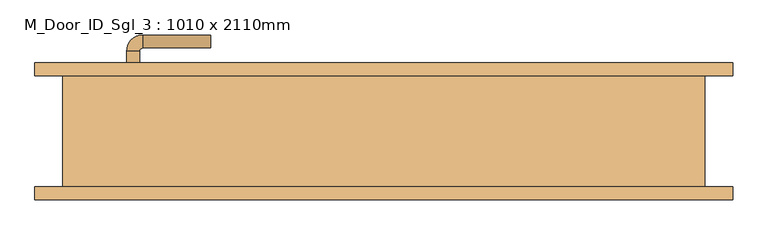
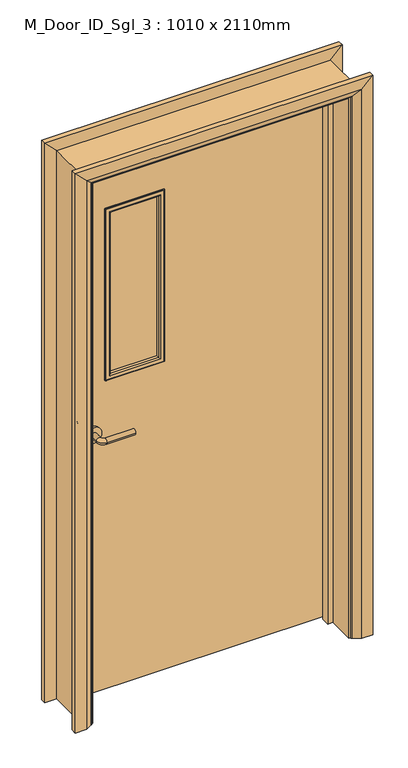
"""IFC4 building model written with IfcOpenShell, lengths in millimetres: door geometry, M_Door_ID_Sgl_3 : 1010 x 2110mm."""

from ifc_helpers import new_model, si_unit, point, frame, frame_2d, origin, place, context, project, spatial, polyline, circle_curve, ellipse_curve, trimmed, segment, composite_curve, outline, extrude, faceted_brep, source, transform, mapped, element, save
from ifc_brep_helpers import plane_surface, cylinder_surface, revolved_surface, advanced_brep


def m_door_id_sgl_3_1010_x_2110mm_d7484460(model_context):
    return source(origin(), model_context, "Body", "SolidModel", [
        advanced_brep(
        [(-398.0, 40.0, 1000.0), (-378.0, 40.0, 1000.0), (-378.0, 10.0, 1000.0), (-398.0, 10.0, 1000.0), (-373.0, 5.0, 1000.0), (-373.0, -15.0, 1000.0), (-268.0, -15.0, 1000.0), (-268.0, 5.0, 1000.0)],
        [
            (0, 1, circle_curve(frame((-388.0, 40.0, 1000.0), z_axis=(0.0, 1.0, 0.0), x_axis=(1.0, 0.0, 0.0)), 10.0)),
            (1, 0, circle_curve(frame((-388.0, 40.0, 1000.0), z_axis=(0.0, 1.0, 0.0), x_axis=(1.0, 0.0, 0.0)), 10.0)),
            (1, 2),
            (2, 3, circle_curve(frame((-388.0, 10.0, 1000.0), z_axis=(0.0, 1.0, 0.0), x_axis=(1.0, 0.0, 0.0)), 10.0)),
            (3, 0),
            (3, 2, circle_curve(frame((-388.0, 10.0, 1000.0), z_axis=(0.0, 1.0, 0.0), x_axis=(1.0, 0.0, 0.0)), 10.0)),
            (4, 5, circle_curve(frame((-373.0, -5.0, 1000.0), z_axis=(-1.0, 0.0, 0.0), x_axis=(0.0, 1.0, 0.0)), 10.0)),
            (5, 3, circle_curve(frame((-373.0, 10.0, 1000.0), z_axis=(0.0, 0.0, -1.0), x_axis=(-1.0, 0.0, 0.0)), 25.0)),
            (2, 4, circle_curve(frame((-373.0, 10.0, 1000.0), z_axis=(0.0, 0.0, 1.0), x_axis=(-1.0, 0.0, 0.0)), 5.0)),
            (5, 4, circle_curve(frame((-373.0, -5.0, 1000.0), z_axis=(-1.0, 0.0, 0.0), x_axis=(0.0, 1.0, 0.0)), 10.0)),
            (6, 7, circle_curve(frame((-268.0, -5.0, 1000.0), z_axis=(1.0, 0.0, 0.0), x_axis=(0.0, 1.0, 0.0)), 10.0)),
            (7, 6, circle_curve(frame((-268.0, -5.0, 1000.0), z_axis=(1.0, 0.0, 0.0), x_axis=(0.0, 1.0, 0.0)), 10.0)),
            (4, 7),
            (6, 5),
        ],
        [
            plane_surface(frame((-388.0, 40.0, 1000.0), z_axis=(0.0, 1.0, 0.0), x_axis=(0.0, 0.0, 1.0))),
            cylinder_surface(frame((-388.0, 40.0, 1000.0), z_axis=(0.0, 1.0, 0.0), x_axis=(1.0, 0.0, 0.0)), 10.0),
            revolved_surface(trimmed(ellipse_curve(frame((-388.0, 10.0, 1000.0), z_axis=(0.0, -1.0, 0.0), x_axis=(1.0, 0.0, 0.0)), 10.0, 10.0), [point((-398.0, 10.0, 1000.0))], [point((-378.0, 10.0, 1000.0))], True, "CARTESIAN"), (-373.0, 10.0, 1000.0), (0.0, 0.0, -1.0)),
            revolved_surface(trimmed(ellipse_curve(frame((-388.0, 10.0, 1000.0), z_axis=(0.0, -1.0, 0.0), x_axis=(1.0, 0.0, 0.0)), 10.0, 10.0), [point((-378.0, 10.0, 1000.0))], [point((-398.0, 10.0, 1000.0))], True, "CARTESIAN"), (-373.0, 10.0, 1000.0), (0.0, 0.0, -1.0)),
            plane_surface(frame((-268.0, -5.0, 1000.0), z_axis=(1.0, 0.0, 0.0), x_axis=(0.0, 0.0, 1.0))),
            cylinder_surface(frame((-373.0, -5.0, 1000.0), z_axis=(-1.0, 0.0, 0.0), x_axis=(0.0, 1.0, 0.0)), 10.0),
        ],
        [
            (0, [[1, 2]]),
            (1, [[3, 4, 5, -2]]),
            (1, [[-5, 6, -3, -1]]),
            (2, [[7, 8, -4, 9]]),
            (3, [[10, -9, -6, -8]]),
            (4, [[11, 12]]),
            (5, [[13, -11, 14, -7]]),
            (5, [[-14, -12, -13, -10]]),
        ],
    ),
        extrude(outline(composite_curve([segment(trimmed(circle_curve(frame_2d((1000.0, -390.5)), 30.0), [point((1000.0, -420.5))], [point((1000.0, -360.5))], False, "CARTESIAN"), True, "CONTINUOUS"), segment(trimmed(circle_curve(frame_2d((1000.0, -390.5)), 30.0), [point((1000.0, -360.5))], [point((1000.0, -420.5))], False, "CARTESIAN"), True, "CONTINUOUS")], self_intersect=False)), frame((0.0, 40.0, 0.0), z_axis=(0.0, 1.0, 0.0), x_axis=(0.0, 0.0, 1.0)), (0.0, 0.0, 1.0), 8.0),
        advanced_brep(
        [(-398.0, 94.0, 1000.0), (-378.0, 94.0, 1000.0), (-398.0, 124.0, 1000.0), (-378.0, 124.0, 1000.0), (-373.0, 129.0, 1000.0), (-373.0, 149.0, 1000.0), (-268.0, 149.0, 1000.0), (-268.0, 129.0, 1000.0)],
        [
            (0, 1, circle_curve(frame((-388.0, 94.0, 1000.0), z_axis=(0.0, -1.0, 0.0), x_axis=(1.0, 0.0, 0.0)), 10.0)),
            (1, 0, circle_curve(frame((-388.0, 94.0, 1000.0), z_axis=(0.0, -1.0, 0.0), x_axis=(1.0, 0.0, 0.0)), 10.0)),
            (0, 2),
            (2, 3, circle_curve(frame((-388.0, 124.0, 1000.0), z_axis=(0.0, -1.0, 0.0), x_axis=(1.0, 0.0, 0.0)), 10.0)),
            (3, 1),
            (3, 2, circle_curve(frame((-388.0, 124.0, 1000.0), z_axis=(0.0, -1.0, 0.0), x_axis=(1.0, 0.0, 0.0)), 10.0)),
            (4, 3, circle_curve(frame((-373.0, 124.0, 1000.0), z_axis=(0.0, 0.0, 1.0), x_axis=(-1.0, 0.0, 0.0)), 5.0)),
            (2, 5, circle_curve(frame((-373.0, 124.0, 1000.0), z_axis=(0.0, 0.0, -1.0), x_axis=(-1.0, 0.0, 0.0)), 25.0)),
            (5, 4, circle_curve(frame((-373.0, 139.0, 1000.0), z_axis=(-1.0, 0.0, 0.0), x_axis=(0.0, -1.0, 0.0)), 10.0)),
            (4, 5, circle_curve(frame((-373.0, 139.0, 1000.0), z_axis=(-1.0, 0.0, 0.0), x_axis=(0.0, -1.0, 0.0)), 10.0)),
            (6, 7, circle_curve(frame((-268.0, 139.0, 1000.0), z_axis=(1.0, 0.0, 0.0), x_axis=(0.0, -1.0, 0.0)), 10.0)),
            (7, 6, circle_curve(frame((-268.0, 139.0, 1000.0), z_axis=(1.0, 0.0, 0.0), x_axis=(0.0, -1.0, 0.0)), 10.0)),
            (5, 6),
            (7, 4),
        ],
        [
            plane_surface(frame((-388.0, 94.0, 1000.0), z_axis=(0.0, -1.0, 0.0), x_axis=(0.0, 0.0, 1.0))),
            cylinder_surface(frame((-388.0, 94.0, 1000.0), z_axis=(0.0, -1.0, 0.0), x_axis=(1.0, 0.0, 0.0)), 10.0),
            revolved_surface(trimmed(ellipse_curve(frame((-388.0, 124.0, 1000.0), z_axis=(0.0, -1.0, 0.0), x_axis=(1.0, 0.0, 0.0)), 10.0, 10.0), [point((-398.0, 124.0, 1000.0))], [point((-378.0, 124.0, 1000.0))], True, "CARTESIAN"), (-373.0, 124.0, 1000.0), (0.0, 0.0, -1.0)),
            revolved_surface(trimmed(ellipse_curve(frame((-388.0, 124.0, 1000.0), z_axis=(0.0, -1.0, 0.0), x_axis=(1.0, 0.0, 0.0)), 10.0, 10.0), [point((-378.0, 124.0, 1000.0))], [point((-398.0, 124.0, 1000.0))], True, "CARTESIAN"), (-373.0, 124.0, 1000.0), (0.0, 0.0, -1.0)),
            plane_surface(frame((-268.0, 139.0, 1000.0), z_axis=(1.0, 0.0, 0.0), x_axis=(0.0, 0.0, 1.0))),
            cylinder_surface(frame((-373.0, 139.0, 1000.0), z_axis=(-1.0, 0.0, 0.0), x_axis=(0.0, -1.0, 0.0)), 10.0),
        ],
        [
            (0, [[1, 2]]),
            (1, [[-1, 3, 4, 5]]),
            (1, [[-2, -5, 6, -3]]),
            (2, [[7, -4, 8, 9]]),
            (3, [[-8, -6, -7, 10]]),
            (4, [[11, 12]]),
            (5, [[-9, 13, -12, 14]]),
            (5, [[-10, -14, -11, -13]]),
        ],
    ),
        extrude(outline(composite_curve([segment(trimmed(circle_curve(frame_2d((1000.0, -390.5)), 30.0), [point((1000.0, -420.5))], [point((1000.0, -360.5))], False, "CARTESIAN"), True, "CONTINUOUS"), segment(trimmed(circle_curve(frame_2d((1000.0, -390.5)), 30.0), [point((1000.0, -360.5))], [point((1000.0, -420.5))], False, "CARTESIAN"), True, "CONTINUOUS")], self_intersect=False)), frame((0.0, 86.0, 0.0), z_axis=(0.0, 1.0, 0.0), x_axis=(0.0, 0.0, 1.0)), (0.0, 0.0, 1.0), 8.0),
        extrude(outline(polyline([(2068.0, -463.0), (8.0, -463.0), (8.0, 463.0), (2068.0, 463.0), (2068.0, -463.0)]), holes=[polyline([(1843.0, -138.0), (1200.0, -138.0), (1200.0, -338.0), (1843.0, -338.0), (1843.0, -138.0)])]), frame((0.0, 48.0, 0.0), z_axis=(0.0, 1.0, 0.0), x_axis=(0.0, 0.0, 1.0)), (0.0, 0.0, 1.0), 38.0),
        faceted_brep([(-465.0, 86.0, 0.0), (-465.0, -86.0, 0.0), (-497.0, -86.0, 0.0), (-497.0, 86.0, 0.0), (-465.0, 86.0, 2070.0), (-465.0, -86.0, 2070.0), (-497.0, -86.0, 2102.0), (-497.0, 86.0, 2102.0), (465.0, 86.0, 0.0), (497.0, 86.0, 0.0), (497.0, -86.0, 0.0), (465.0, -86.0, 0.0), (465.0, 86.0, 2070.0), (497.0, 86.0, 2102.0), (497.0, -86.0, 2102.0), (465.0, -86.0, 2070.0)], [[[0, 1, 2, 3]], [[1, 0, 4, 5]], [[2, 1, 5, 6]], [[3, 2, 6, 7]], [[0, 3, 7, 4]], [[8, 9, 10, 11]], [[12, 13, 9, 8]], [[13, 14, 10, 9]], [[14, 15, 11, 10]], [[15, 12, 8, 11]], [[5, 4, 12, 15]], [[6, 5, 15, 14]], [[7, 6, 14, 13]], [[4, 7, 13, 12]]]),
        advanced_brep(
        [(-540.0, -106.0, 0.0), (-540.0, -86.0, 0.0), (-470.0, -86.0, 0.0), (-474.0, -92.0, 0.0), (-500.0, -106.0, 0.0), (-540.0, -106.0, 2145.0), (-540.0, -86.0, 2145.0), (-470.0, -86.0, 2075.0), (-474.0, -92.0, 2079.0), (-500.0, -106.0, 2105.0), (540.0, -106.0, 0.0), (500.0, -106.0, 0.0), (474.0, -92.0, 0.0), (470.0, -86.0, 0.0), (540.0, -86.0, 0.0), (540.0, -106.0, 2145.0), (500.0, -106.0, 2105.0), (474.0, -92.0, 2079.0), (470.0, -86.0, 2075.0), (540.0, -86.0, 2145.0)],
        [
            (0, 1),
            (1, 2),
            (2, 3, circle_curve(frame((-478.0, -85.0, 0.0), z_axis=(0.0, 0.0, -1.0), x_axis=(-1.0, 0.0, 0.0)), 8.0622577)),
            (3, 4),
            (4, 0),
            (0, 5),
            (5, 6),
            (6, 1),
            (6, 7),
            (7, 2),
            (7, 8, ellipse_curve(frame((-478.0, -85.0, 2083.0), z_axis=(-0.7071067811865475, 0.0, -0.7071067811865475), x_axis=(0.7071067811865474, 0.0, -0.7071067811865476)), 11.4017543, 8.0622577)),
            (8, 3),
            (8, 9),
            (9, 4),
            (9, 5),
            (10, 11),
            (11, 12),
            (12, 13, circle_curve(frame((478.0, -85.0, 0.0), z_axis=(0.0, 0.0, -1.0), x_axis=(1.0, 0.0, 0.0)), 8.0622577)),
            (13, 14),
            (14, 10),
            (15, 16),
            (16, 11),
            (10, 15),
            (16, 17),
            (17, 12),
            (17, 18, ellipse_curve(frame((478.0, -85.0, 2083.0), z_axis=(0.7071067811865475, 0.0, -0.7071067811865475), x_axis=(0.7071067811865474, 0.0, 0.7071067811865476)), 11.4017543, 8.0622577)),
            (18, 13),
            (18, 19),
            (19, 14),
            (19, 15),
            (5, 15),
            (19, 6),
            (18, 7),
            (17, 8),
            (16, 9),
        ],
        [
            plane_surface(frame((-470.0, -158.8010989, 0.0), z_axis=(0.0, 0.0, -1.0), x_axis=(1.0, 0.0, 0.0))),
            plane_surface(frame((-540.0, -106.0, 0.0), z_axis=(-1.0, 0.0, 0.0), x_axis=(0.0, 0.0, 1.0))),
            plane_surface(frame((-540.0, -86.0, 0.0), z_axis=(0.0, 1.0, 0.0), x_axis=(0.0, 0.0, 1.0))),
            cylinder_surface(frame((-478.0, -85.0, 0.0), z_axis=(0.0, 0.0, -1.0), x_axis=(-1.0, 0.0, 0.0)), 8.0622577),
            plane_surface(frame((-474.0, -92.0, 0.0), z_axis=(0.4740998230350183, -0.8804710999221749, 0.0), x_axis=(0.0, 0.0, 1.0))),
            plane_surface(frame((-500.0, -106.0, 0.0), z_axis=(0.0, -1.0, 0.0), x_axis=(0.0, 0.0, 1.0))),
            plane_surface(frame((470.0, -158.8010989, 0.0), z_axis=(0.0, 0.0, -1.0), x_axis=(-1.0, 0.0, 0.0))),
            plane_surface(frame((500.0, -106.0, 2105.0), z_axis=(0.0, -1.0, 0.0), x_axis=(0.0, 0.0, -1.0))),
            plane_surface(frame((474.0, -92.0, 2079.0), z_axis=(-0.4740998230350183, -0.8804710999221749, 0.0), x_axis=(0.0, 0.0, -1.0))),
            cylinder_surface(frame((478.0, -85.0, 2075.0), z_axis=(0.0, 0.0, 1.0), x_axis=(1.0, 0.0, 0.0)), 8.0622577),
            plane_surface(frame((540.0, -86.0, 2145.0), z_axis=(0.0, 1.0, 0.0), x_axis=(0.0, 0.0, -1.0))),
            plane_surface(frame((540.0, -106.0, 2145.0), z_axis=(1.0, 0.0, 0.0), x_axis=(0.0, 0.0, -1.0))),
            plane_surface(frame((-540.0, -106.0, 2145.0), z_axis=(0.0, 0.0, 1.0), x_axis=(1.0, 0.0, 0.0))),
            plane_surface(frame((-540.0, -86.0, 2145.0), z_axis=(0.0, 1.0, 0.0), x_axis=(1.0, 0.0, 0.0))),
            cylinder_surface(frame((-470.0, -85.0, 2083.0), z_axis=(-1.0, 0.0, 0.0), x_axis=(0.0, 0.0, 1.0)), 8.0622577),
            plane_surface(frame((-474.0, -92.0, 2079.0), z_axis=(0.0, -0.8804710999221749, -0.4740998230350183), x_axis=(1.0, 0.0, 0.0))),
            plane_surface(frame((-500.0, -106.0, 2105.0), z_axis=(0.0, -1.0, 0.0), x_axis=(1.0, 0.0, 0.0))),
        ],
        [
            (0, [[1, 2, 3, 4, 5]]),
            (1, [[-1, 6, 7, 8]]),
            (2, [[-2, -8, 9, 10]]),
            (3, [[-3, -10, 11, 12]]),
            (4, [[-4, -12, 13, 14]]),
            (5, [[-5, -14, 15, -6]]),
            (6, [[16, 17, 18, 19, 20]]),
            (7, [[21, 22, -16, 23]]),
            (8, [[24, 25, -17, -22]]),
            (9, [[26, 27, -18, -25]]),
            (10, [[28, 29, -19, -27]]),
            (11, [[30, -23, -20, -29]]),
            (12, [[-7, 31, -30, 32]]),
            (13, [[-9, -32, -28, 33]]),
            (14, [[-11, -33, -26, 34]]),
            (15, [[-13, -34, -24, 35]]),
            (16, [[-15, -35, -21, -31]]),
        ],
    ),
        advanced_brep(
        [(-540.0, 106.0, 0.0), (-500.0, 106.0, 0.0), (-474.0, 92.0, 0.0), (-470.0, 86.0, 0.0), (-540.0, 86.0, 0.0), (-540.0, 106.0, 2145.0), (-500.0, 106.0, 2105.0), (-474.0, 92.0, 2079.0), (-470.0, 86.0, 2075.0), (-540.0, 86.0, 2145.0), (540.0, 106.0, 0.0), (540.0, 86.0, 0.0), (470.0, 86.0, 0.0), (474.0, 92.0, 0.0), (500.0, 106.0, 0.0), (540.0, 106.0, 2145.0), (540.0, 86.0, 2145.0), (470.0, 86.0, 2075.0), (474.0, 92.0, 2079.0), (500.0, 106.0, 2105.0)],
        [
            (0, 1),
            (1, 2),
            (2, 3, circle_curve(frame((-478.0, 85.0, 0.0), z_axis=(0.0, 0.0, -1.0), x_axis=(-1.0, 0.0, 0.0)), 8.0622577)),
            (3, 4),
            (4, 0),
            (0, 5),
            (5, 6),
            (6, 1),
            (6, 7),
            (7, 2),
            (7, 8, ellipse_curve(frame((-478.0, 85.0, 2083.0), z_axis=(-0.7071067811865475, 0.0, -0.7071067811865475), x_axis=(0.7071067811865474, 0.0, -0.7071067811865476)), 11.4017543, 8.0622577)),
            (8, 3),
            (8, 9),
            (9, 4),
            (9, 5),
            (10, 11),
            (11, 12),
            (12, 13, circle_curve(frame((478.0, 85.0, 0.0), z_axis=(0.0, 0.0, -1.0), x_axis=(1.0, 0.0, 0.0)), 8.0622577)),
            (13, 14),
            (14, 10),
            (15, 16),
            (16, 11),
            (10, 15),
            (16, 17),
            (17, 12),
            (17, 18, ellipse_curve(frame((478.0, 85.0, 2083.0), z_axis=(0.7071067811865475, 0.0, -0.7071067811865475), x_axis=(0.7071067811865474, 0.0, 0.7071067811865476)), 11.4017543, 8.0622577)),
            (18, 13),
            (18, 19),
            (19, 14),
            (19, 15),
            (5, 15),
            (19, 6),
            (18, 7),
            (17, 8),
            (16, 9),
        ],
        [
            plane_surface(frame((-470.0, 13.1989011, 0.0), z_axis=(0.0, 0.0, -1.0), x_axis=(1.0, 0.0, 0.0))),
            plane_surface(frame((-540.0, 106.0, 0.0), z_axis=(0.0, 1.0, 0.0), x_axis=(0.0, 0.0, 1.0))),
            plane_surface(frame((-500.0, 106.0, 0.0), z_axis=(0.4740998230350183, 0.8804710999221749, 0.0), x_axis=(0.0, 0.0, 1.0))),
            cylinder_surface(frame((-478.0, 85.0, 0.0), z_axis=(0.0, 0.0, -1.0), x_axis=(-1.0, 0.0, 0.0)), 8.0622577),
            plane_surface(frame((-470.0, 86.0, 0.0), z_axis=(0.0, -1.0, 0.0), x_axis=(0.0, 0.0, 1.0))),
            plane_surface(frame((-540.0, 86.0, 0.0), z_axis=(-1.0, 0.0, 0.0), x_axis=(0.0, 0.0, 1.0))),
            plane_surface(frame((470.0, 13.1989011, 0.0), z_axis=(0.0, 0.0, -1.0), x_axis=(-1.0, 0.0, 0.0))),
            plane_surface(frame((540.0, 86.0, 2145.0), z_axis=(1.0, 0.0, 0.0), x_axis=(0.0, 0.0, -1.0))),
            plane_surface(frame((470.0, 86.0, 2075.0), z_axis=(0.0, -1.0, 0.0), x_axis=(0.0, 0.0, -1.0))),
            cylinder_surface(frame((478.0, 85.0, 2075.0), z_axis=(0.0, 0.0, 1.0), x_axis=(1.0, 0.0, 0.0)), 8.0622577),
            plane_surface(frame((500.0, 106.0, 2105.0), z_axis=(-0.4740998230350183, 0.8804710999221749, 0.0), x_axis=(0.0, 0.0, -1.0))),
            plane_surface(frame((540.0, 106.0, 2145.0), z_axis=(0.0, 1.0, 0.0), x_axis=(0.0, 0.0, -1.0))),
            plane_surface(frame((-540.0, 106.0, 2145.0), z_axis=(0.0, 1.0, 0.0), x_axis=(1.0, 0.0, 0.0))),
            plane_surface(frame((-500.0, 106.0, 2105.0), z_axis=(0.0, 0.8804710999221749, -0.4740998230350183), x_axis=(1.0, 0.0, 0.0))),
            cylinder_surface(frame((-470.0, 85.0, 2083.0), z_axis=(-1.0, 0.0, 0.0), x_axis=(0.0, 0.0, 1.0)), 8.0622577),
            plane_surface(frame((-470.0, 86.0, 2075.0), z_axis=(0.0, -1.0, 0.0), x_axis=(1.0, 0.0, 0.0))),
            plane_surface(frame((-540.0, 86.0, 2145.0), z_axis=(0.0, 0.0, 1.0), x_axis=(1.0, 0.0, 0.0))),
        ],
        [
            (0, [[1, 2, 3, 4, 5]]),
            (1, [[-1, 6, 7, 8]]),
            (2, [[-2, -8, 9, 10]]),
            (3, [[-3, -10, 11, 12]]),
            (4, [[-4, -12, 13, 14]]),
            (5, [[-5, -14, 15, -6]]),
            (6, [[16, 17, 18, 19, 20]]),
            (7, [[21, 22, -16, 23]]),
            (8, [[24, 25, -17, -22]]),
            (9, [[26, 27, -18, -25]]),
            (10, [[28, 29, -19, -27]]),
            (11, [[30, -23, -20, -29]]),
            (12, [[-7, 31, -30, 32]]),
            (13, [[-9, -32, -28, 33]]),
            (14, [[-11, -33, -26, 34]]),
            (15, [[-13, -34, -24, 35]]),
            (16, [[-15, -35, -21, -31]]),
        ],
    ),
        extrude(outline(polyline([(0.0, -465.0), (0.0, -446.0), (2051.0, -446.0), (2051.0, 446.0), (0.0, 446.0), (0.0, 465.0), (2070.0, 465.0), (2070.0, -465.0), (0.0, -465.0)])), frame((0.0, 14.0, 0.0), z_axis=(0.0, 1.0, 0.0), x_axis=(0.0, 0.0, 1.0)), (0.0, 0.0, 1.0), 32.0),
        advanced_brep(
        [(-130.0, 90.0, 1851.0), (-130.0, 86.0, 1851.0), (-130.0, 86.0, 1192.0), (-130.0, 90.0, 1192.0), (-132.0, 92.0, 1849.0), (-132.0, 92.0, 1194.0), (-150.0, 87.0, 1831.0), (-145.0, 92.0, 1836.0), (-145.0, 92.0, 1207.0), (-150.0, 87.0, 1212.0), (-150.0, 76.0, 1831.0), (-150.0, 76.0, 1212.0), (-138.0, 86.0, 1843.0), (-138.0, 76.0, 1843.0), (-138.0, 76.0, 1200.0), (-138.0, 86.0, 1200.0), (-346.0, 86.0, 1192.0), (-346.0, 90.0, 1192.0), (-344.0, 92.0, 1194.0), (-331.0, 92.0, 1207.0), (-326.0, 87.0, 1212.0), (-326.0, 76.0, 1212.0), (-338.0, 76.0, 1200.0), (-338.0, 86.0, 1200.0), (-346.0, 86.0, 1851.0), (-346.0, 90.0, 1851.0), (-344.0, 92.0, 1849.0), (-331.0, 92.0, 1836.0), (-326.0, 87.0, 1831.0), (-326.0, 76.0, 1831.0), (-338.0, 76.0, 1843.0), (-338.0, 86.0, 1843.0)],
        [
            (0, 1),
            (1, 2),
            (2, 3),
            (3, 0),
            (4, 0, ellipse_curve(frame((-132.0, 90.0, 1849.0), z_axis=(0.7071067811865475, 0.0, -0.7071067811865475), x_axis=(0.7071067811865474, 0.0, 0.7071067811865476)), 2.8284271, 2.0)),
            (3, 5, ellipse_curve(frame((-132.0, 90.0, 1194.0), z_axis=(0.7071067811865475, 0.0, 0.7071067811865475), x_axis=(-0.7071067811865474, 0.0, 0.7071067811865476)), 2.8284271, 2.0)),
            (5, 4),
            (6, 7, ellipse_curve(frame((-145.0, 87.0, 1836.0), z_axis=(0.7071067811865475, 0.0, -0.7071067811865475), x_axis=(0.7071067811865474, 0.0, 0.7071067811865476)), 7.0710678, 5.0)),
            (7, 8),
            (8, 9, ellipse_curve(frame((-145.0, 87.0, 1207.0), z_axis=(0.7071067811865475, 0.0, 0.7071067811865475), x_axis=(-0.7071067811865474, 0.0, 0.7071067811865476)), 7.0710678, 5.0)),
            (9, 6),
            (10, 6),
            (9, 11),
            (11, 10),
            (12, 13),
            (13, 14),
            (14, 15),
            (15, 12),
            (2, 16),
            (16, 17),
            (17, 3),
            (17, 18, ellipse_curve(frame((-344.0, 90.0, 1194.0), z_axis=(0.7071067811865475, 0.0, -0.7071067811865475), x_axis=(0.7071067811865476, 0.0, 0.7071067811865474)), 2.8284271, 2.0)),
            (18, 5),
            (8, 19),
            (19, 20, ellipse_curve(frame((-331.0, 87.0, 1207.0), z_axis=(0.7071067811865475, 0.0, -0.7071067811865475), x_axis=(0.7071067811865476, 0.0, 0.7071067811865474)), 7.0710678, 5.0)),
            (20, 9),
            (20, 21),
            (21, 11),
            (14, 22),
            (22, 23),
            (23, 15),
            (16, 24),
            (24, 25),
            (25, 17),
            (25, 26, ellipse_curve(frame((-344.0, 90.0, 1849.0), z_axis=(-0.7071067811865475, 0.0, -0.7071067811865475), x_axis=(0.7071067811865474, 0.0, -0.7071067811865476)), 2.8284271, 2.0)),
            (26, 18),
            (19, 27),
            (27, 28, ellipse_curve(frame((-331.0, 87.0, 1836.0), z_axis=(-0.7071067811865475, 0.0, -0.7071067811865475), x_axis=(0.7071067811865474, 0.0, -0.7071067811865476)), 7.0710678, 5.0)),
            (28, 20),
            (28, 29),
            (29, 21),
            (22, 30),
            (30, 31),
            (31, 23),
            (24, 1),
            (0, 25),
            (4, 26),
            (7, 27),
            (6, 28),
            (10, 29),
            (13, 30),
            (12, 31),
        ],
        [
            plane_surface(frame((-130.0, 86.0, 1851.0), z_axis=(1.0, 0.0, 0.0), x_axis=(0.0, 0.0, -1.0))),
            cylinder_surface(frame((-132.0, 90.0, 1843.0), z_axis=(0.0, 0.0, 1.0), x_axis=(1.0, 0.0, 0.0)), 2.0),
            cylinder_surface(frame((-145.0, 87.0, 1843.0), z_axis=(0.0, 0.0, 1.0), x_axis=(1.0, 0.0, 0.0)), 5.0),
            plane_surface(frame((-150.0, 87.0, 1831.0), z_axis=(-1.0, 0.0, 0.0), x_axis=(0.0, 0.0, -1.0))),
            plane_surface(frame((-138.0, 76.0, 1843.0), z_axis=(1.0, 0.0, 0.0), x_axis=(0.0, 0.0, -1.0))),
            plane_surface(frame((-130.0, 86.0, 1192.0), z_axis=(0.0, 0.0, -1.0), x_axis=(-1.0, 0.0, 0.0))),
            cylinder_surface(frame((-138.0, 90.0, 1194.0), z_axis=(1.0, 0.0, 0.0), x_axis=(0.0, 0.0, -1.0)), 2.0),
            cylinder_surface(frame((-138.0, 87.0, 1207.0), z_axis=(1.0, 0.0, 0.0), x_axis=(0.0, 0.0, -1.0)), 5.0),
            plane_surface(frame((-150.0, 87.0, 1212.0), z_axis=(0.0, 0.0, 1.0), x_axis=(-1.0, 0.0, 0.0))),
            plane_surface(frame((-138.0, 76.0, 1200.0), z_axis=(0.0, 0.0, -1.0), x_axis=(-1.0, 0.0, 0.0))),
            plane_surface(frame((-346.0, 86.0, 1192.0), z_axis=(-1.0, 0.0, 0.0), x_axis=(0.0, 0.0, 1.0))),
            cylinder_surface(frame((-344.0, 90.0, 1200.0), z_axis=(0.0, 0.0, -1.0), x_axis=(-1.0, 0.0, 0.0)), 2.0),
            cylinder_surface(frame((-331.0, 87.0, 1200.0), z_axis=(0.0, 0.0, -1.0), x_axis=(-1.0, 0.0, 0.0)), 5.0),
            plane_surface(frame((-326.0, 87.0, 1212.0), z_axis=(1.0, 0.0, 0.0), x_axis=(0.0, 0.0, 1.0))),
            plane_surface(frame((-338.0, 76.0, 1200.0), z_axis=(-1.0, 0.0, 0.0), x_axis=(0.0, 0.0, 1.0))),
            plane_surface(frame((-346.0, 86.0, 1851.0), z_axis=(0.0, 0.0, 1.0), x_axis=(1.0, 0.0, 0.0))),
            cylinder_surface(frame((-338.0, 90.0, 1849.0), z_axis=(-1.0, 0.0, 0.0), x_axis=(0.0, 0.0, 1.0)), 2.0),
            plane_surface(frame((-344.0, 92.0, 1849.0), z_axis=(0.0, 1.0, 0.0), x_axis=(1.0, 0.0, 0.0))),
            cylinder_surface(frame((-338.0, 87.0, 1836.0), z_axis=(-1.0, 0.0, 0.0), x_axis=(0.0, 0.0, 1.0)), 5.0),
            plane_surface(frame((-326.0, 87.0, 1831.0), z_axis=(0.0, 0.0, -1.0), x_axis=(1.0, 0.0, 0.0))),
            plane_surface(frame((-326.0, 76.0, 1831.0), z_axis=(0.0, -1.0, 0.0), x_axis=(1.0, 0.0, 0.0))),
            plane_surface(frame((-338.0, 76.0, 1843.0), z_axis=(0.0, 0.0, 1.0), x_axis=(1.0, 0.0, 0.0))),
            plane_surface(frame((-338.0, 86.0, 1843.0), z_axis=(0.0, -1.0, 0.0), x_axis=(1.0, 0.0, 0.0))),
        ],
        [
            (0, [[1, 2, 3, 4]]),
            (1, [[5, -4, 6, 7]]),
            (2, [[8, 9, 10, 11]]),
            (3, [[12, -11, 13, 14]]),
            (4, [[15, 16, 17, 18]]),
            (5, [[-3, 19, 20, 21]]),
            (6, [[-6, -21, 22, 23]]),
            (7, [[-10, 24, 25, 26]]),
            (8, [[-13, -26, 27, 28]]),
            (9, [[-17, 29, 30, 31]]),
            (10, [[-20, 32, 33, 34]]),
            (11, [[-22, -34, 35, 36]]),
            (12, [[-25, 37, 38, 39]]),
            (13, [[-27, -39, 40, 41]]),
            (14, [[-30, 42, 43, 44]]),
            (15, [[-33, 45, -1, 46]]),
            (16, [[-35, -46, -5, 47]]),
            (17, [[-23, -36, -47, -7], [48, -37, -24, -9]]),
            (18, [[-38, -48, -8, 49]]),
            (19, [[-40, -49, -12, 50]]),
            (20, [[51, -42, -29, -16], [-28, -41, -50, -14]]),
            (21, [[-43, -51, -15, 52]]),
            (22, [[-45, -32, -19, -2], [-31, -44, -52, -18]]),
        ],
    ),
        advanced_brep(
        [(-138.0, 58.0, 1843.0), (-138.0, 48.0, 1843.0), (-138.0, 48.0, 1200.0), (-138.0, 58.0, 1200.0), (-150.0, 47.0, 1831.0), (-150.0, 58.0, 1831.0), (-150.0, 58.0, 1212.0), (-150.0, 47.0, 1212.0), (-145.0, 42.0, 1836.0), (-145.0, 42.0, 1207.0), (-130.0, 44.0, 1851.0), (-132.0, 42.0, 1849.0), (-132.0, 42.0, 1194.0), (-130.0, 44.0, 1192.0), (-130.0, 48.0, 1851.0), (-130.0, 48.0, 1192.0), (-338.0, 48.0, 1200.0), (-338.0, 58.0, 1200.0), (-326.0, 58.0, 1212.0), (-326.0, 47.0, 1212.0), (-331.0, 42.0, 1207.0), (-344.0, 42.0, 1194.0), (-346.0, 44.0, 1192.0), (-346.0, 48.0, 1192.0), (-338.0, 48.0, 1843.0), (-338.0, 58.0, 1843.0), (-326.0, 58.0, 1831.0), (-326.0, 47.0, 1831.0), (-331.0, 42.0, 1836.0), (-344.0, 42.0, 1849.0), (-346.0, 44.0, 1851.0), (-346.0, 48.0, 1851.0)],
        [
            (0, 1),
            (1, 2),
            (2, 3),
            (3, 0),
            (4, 5),
            (5, 6),
            (6, 7),
            (7, 4),
            (8, 4, ellipse_curve(frame((-145.0, 47.0, 1836.0), z_axis=(0.7071067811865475, 0.0, -0.7071067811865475), x_axis=(0.7071067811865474, 0.0, 0.7071067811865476)), 7.0710678, 5.0)),
            (7, 9, ellipse_curve(frame((-145.0, 47.0, 1207.0), z_axis=(0.7071067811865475, 0.0, 0.7071067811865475), x_axis=(-0.7071067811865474, 0.0, 0.7071067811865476)), 7.0710678, 5.0)),
            (9, 8),
            (10, 11, ellipse_curve(frame((-132.0, 44.0, 1849.0), z_axis=(0.7071067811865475, 0.0, -0.7071067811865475), x_axis=(0.7071067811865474, 0.0, 0.7071067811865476)), 2.8284271, 2.0)),
            (11, 12),
            (12, 13, ellipse_curve(frame((-132.0, 44.0, 1194.0), z_axis=(0.7071067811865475, 0.0, 0.7071067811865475), x_axis=(-0.7071067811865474, 0.0, 0.7071067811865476)), 2.8284271, 2.0)),
            (13, 10),
            (14, 10),
            (13, 15),
            (15, 14),
            (2, 16),
            (16, 17),
            (17, 3),
            (6, 18),
            (18, 19),
            (19, 7),
            (19, 20, ellipse_curve(frame((-331.0, 47.0, 1207.0), z_axis=(0.7071067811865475, 0.0, -0.7071067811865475), x_axis=(0.7071067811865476, 0.0, 0.7071067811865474)), 7.0710678, 5.0)),
            (20, 9),
            (12, 21),
            (21, 22, ellipse_curve(frame((-344.0, 44.0, 1194.0), z_axis=(0.7071067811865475, 0.0, -0.7071067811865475), x_axis=(0.7071067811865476, 0.0, 0.7071067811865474)), 2.8284271, 2.0)),
            (22, 13),
            (22, 23),
            (23, 15),
            (16, 24),
            (24, 25),
            (25, 17),
            (18, 26),
            (26, 27),
            (27, 19),
            (27, 28, ellipse_curve(frame((-331.0, 47.0, 1836.0), z_axis=(-0.7071067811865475, 0.0, -0.7071067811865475), x_axis=(0.7071067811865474, 0.0, -0.7071067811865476)), 7.0710678, 5.0)),
            (28, 20),
            (21, 29),
            (29, 30, ellipse_curve(frame((-344.0, 44.0, 1849.0), z_axis=(-0.7071067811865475, 0.0, -0.7071067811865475), x_axis=(0.7071067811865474, 0.0, -0.7071067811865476)), 2.8284271, 2.0)),
            (30, 22),
            (30, 31),
            (31, 23),
            (31, 14),
            (1, 24),
            (0, 25),
            (5, 26),
            (4, 27),
            (8, 28),
            (11, 29),
            (10, 30),
        ],
        [
            plane_surface(frame((-138.0, 48.0, 1843.0), z_axis=(1.0, 0.0, 0.0), x_axis=(0.0, 0.0, -1.0))),
            plane_surface(frame((-150.0, 58.0, 1831.0), z_axis=(-1.0, 0.0, 0.0), x_axis=(0.0, 0.0, -1.0))),
            cylinder_surface(frame((-145.0, 47.0, 1843.0), z_axis=(0.0, 0.0, 1.0), x_axis=(1.0, 0.0, 0.0)), 5.0),
            cylinder_surface(frame((-132.0, 44.0, 1843.0), z_axis=(0.0, 0.0, 1.0), x_axis=(1.0, 0.0, 0.0)), 2.0),
            plane_surface(frame((-130.0, 44.0, 1851.0), z_axis=(1.0, 0.0, 0.0), x_axis=(0.0, 0.0, -1.0))),
            plane_surface(frame((-138.0, 48.0, 1200.0), z_axis=(0.0, 0.0, -1.0), x_axis=(-1.0, 0.0, 0.0))),
            plane_surface(frame((-150.0, 58.0, 1212.0), z_axis=(0.0, 0.0, 1.0), x_axis=(-1.0, 0.0, 0.0))),
            cylinder_surface(frame((-138.0, 47.0, 1207.0), z_axis=(1.0, 0.0, 0.0), x_axis=(0.0, 0.0, -1.0)), 5.0),
            cylinder_surface(frame((-138.0, 44.0, 1194.0), z_axis=(1.0, 0.0, 0.0), x_axis=(0.0, 0.0, -1.0)), 2.0),
            plane_surface(frame((-130.0, 44.0, 1192.0), z_axis=(0.0, 0.0, -1.0), x_axis=(-1.0, 0.0, 0.0))),
            plane_surface(frame((-338.0, 48.0, 1200.0), z_axis=(-1.0, 0.0, 0.0), x_axis=(0.0, 0.0, 1.0))),
            plane_surface(frame((-326.0, 58.0, 1212.0), z_axis=(1.0, 0.0, 0.0), x_axis=(0.0, 0.0, 1.0))),
            cylinder_surface(frame((-331.0, 47.0, 1200.0), z_axis=(0.0, 0.0, -1.0), x_axis=(-1.0, 0.0, 0.0)), 5.0),
            cylinder_surface(frame((-344.0, 44.0, 1200.0), z_axis=(0.0, 0.0, -1.0), x_axis=(-1.0, 0.0, 0.0)), 2.0),
            plane_surface(frame((-346.0, 44.0, 1192.0), z_axis=(-1.0, 0.0, 0.0), x_axis=(0.0, 0.0, 1.0))),
            plane_surface(frame((-346.0, 48.0, 1851.0), z_axis=(0.0, 1.0, 0.0), x_axis=(1.0, 0.0, 0.0))),
            plane_surface(frame((-338.0, 48.0, 1843.0), z_axis=(0.0, 0.0, 1.0), x_axis=(1.0, 0.0, 0.0))),
            plane_surface(frame((-338.0, 58.0, 1843.0), z_axis=(0.0, 1.0, 0.0), x_axis=(1.0, 0.0, 0.0))),
            plane_surface(frame((-326.0, 58.0, 1831.0), z_axis=(0.0, 0.0, -1.0), x_axis=(1.0, 0.0, 0.0))),
            cylinder_surface(frame((-338.0, 47.0, 1836.0), z_axis=(-1.0, 0.0, 0.0), x_axis=(0.0, 0.0, 1.0)), 5.0),
            plane_surface(frame((-331.0, 42.0, 1836.0), z_axis=(0.0, -1.0, 0.0), x_axis=(1.0, 0.0, 0.0))),
            cylinder_surface(frame((-338.0, 44.0, 1849.0), z_axis=(-1.0, 0.0, 0.0), x_axis=(0.0, 0.0, 1.0)), 2.0),
            plane_surface(frame((-346.0, 44.0, 1851.0), z_axis=(0.0, 0.0, 1.0), x_axis=(1.0, 0.0, 0.0))),
        ],
        [
            (0, [[1, 2, 3, 4]]),
            (1, [[5, 6, 7, 8]]),
            (2, [[9, -8, 10, 11]]),
            (3, [[12, 13, 14, 15]]),
            (4, [[16, -15, 17, 18]]),
            (5, [[-3, 19, 20, 21]]),
            (6, [[-7, 22, 23, 24]]),
            (7, [[-10, -24, 25, 26]]),
            (8, [[-14, 27, 28, 29]]),
            (9, [[-17, -29, 30, 31]]),
            (10, [[-20, 32, 33, 34]]),
            (11, [[-23, 35, 36, 37]]),
            (12, [[-25, -37, 38, 39]]),
            (13, [[-28, 40, 41, 42]]),
            (14, [[-30, -42, 43, 44]]),
            (15, [[-31, -44, 45, -18], [46, -32, -19, -2]]),
            (16, [[-33, -46, -1, 47]]),
            (17, [[-21, -34, -47, -4], [48, -35, -22, -6]]),
            (18, [[-36, -48, -5, 49]]),
            (19, [[-38, -49, -9, 50]]),
            (20, [[51, -40, -27, -13], [-26, -39, -50, -11]]),
            (21, [[-41, -51, -12, 52]]),
            (22, [[-43, -52, -16, -45]]),
        ],
    ),
        extrude(outline(polyline([(-338.0, 76.0), (-138.0, 76.0), (-138.0, 58.0), (-338.0, 58.0), (-338.0, 76.0)])), frame((0.0, 0.0, 1200.0), z_axis=(0.0, 0.0, 1.0), x_axis=(1.0, 0.0, 0.0)), (0.0, 0.0, 1.0), 643.0),
    ])


if __name__ == "__main__":
    model = new_model("IFC4")
    model_context = context("Model", 3, world=origin())
    ifc_project = project(units=[si_unit("LENGTHUNIT", "METRE", prefix="MILLI")], contexts=[model_context])
    site = spatial("IfcSite", under=ifc_project)
    building = spatial("IfcBuilding", under=site)
    placement = place(None, origin())
    m_door_id_sgl_3_1010_x_2110mm_shape = m_door_id_sgl_3_1010_x_2110mm_d7484460(model_context)
    element("IfcDoor", 1, ObjectType="M_Door_ID_Sgl_3 : 1010 x 2110mm", at=placement, inside=building, context=model_context, shape_type="MappedRepresentation", body=[
        mapped(m_door_id_sgl_3_1010_x_2110mm_shape, transform((0.0, 0.0, 0.0), x_axis=(1.0, 0.0, 0.0), y_axis=(0.0, 1.0, 0.0), z_axis=(0.0, 0.0, 1.0))),
    ])
    save(model, "model.ifc")
